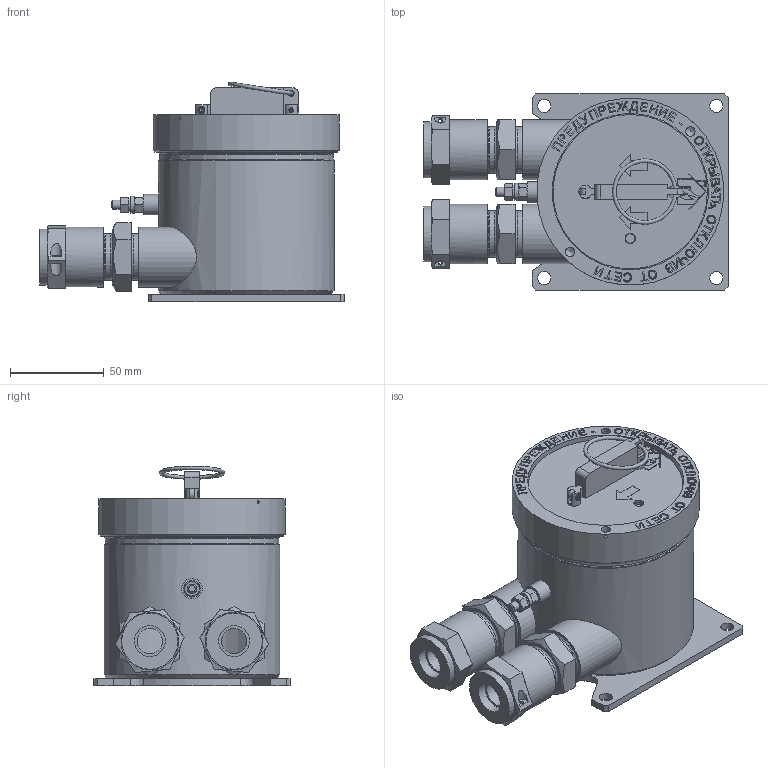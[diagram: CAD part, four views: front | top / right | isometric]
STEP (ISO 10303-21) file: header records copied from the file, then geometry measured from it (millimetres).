
FILE_DESCRIPTION(('STEP AP242'), '1');
FILE_NAME('908.2521.00.000捘 俜謷飶樥罻', '', ('UNSPECIFIED'), ('UNSPECIFIED'), 'ASCON STEP Converter 1.6', 'ASCON Math Kernel', '');
FILE_SCHEMA(('AP242_MANAGED_MODEL_BASED_3D_ENGINEERING_MIM_LF { 1 0 10303 442 1 1 4 }'));
Length unit declared in the file: millimetre
Bounding box: 163 x 105 x 117.57 mm (x, y, z)
Volume: 403588.7 mm3; surface area: 128555.7 mm2
Topology: 7 solids, 7 shells, 1521 faces, 4197 edges, 2776 vertices
Faces by surface type: cylinder 755, plane 688, cone 56, torus 17, extrusion 5
Full cylindrical faces by diameter (mm): 1 x1, 1.5 x4, 2 x4, 3 x1, 3.1 x2, 3.2 x2, 4 x1, 4.134 x3, 5 x7, 5.3 x2, 5.5 x2, 7 x6, 8 x1, 9 x3, 11 x1, 13.6 x2, 14 x2, 16.5 x4, 24.5 x2, 24.8 x4, 25.376 x2, 27 x2, 30 x2, 32 x4, 32.5 x2, 82.5 x1, 83.5 x1, 84 x1, 87 x1, 92.8 x1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
Entity records: 64461 total; most frequent: CARTESIAN_POINT 12610, DIRECTION 8590, ORIENTED_EDGE 8078, EDGE_CURVE 4039, AXIS2_PLACEMENT_3D 3157, VERTEX_POINT 2768, VECTOR 2276, LINE 2271
